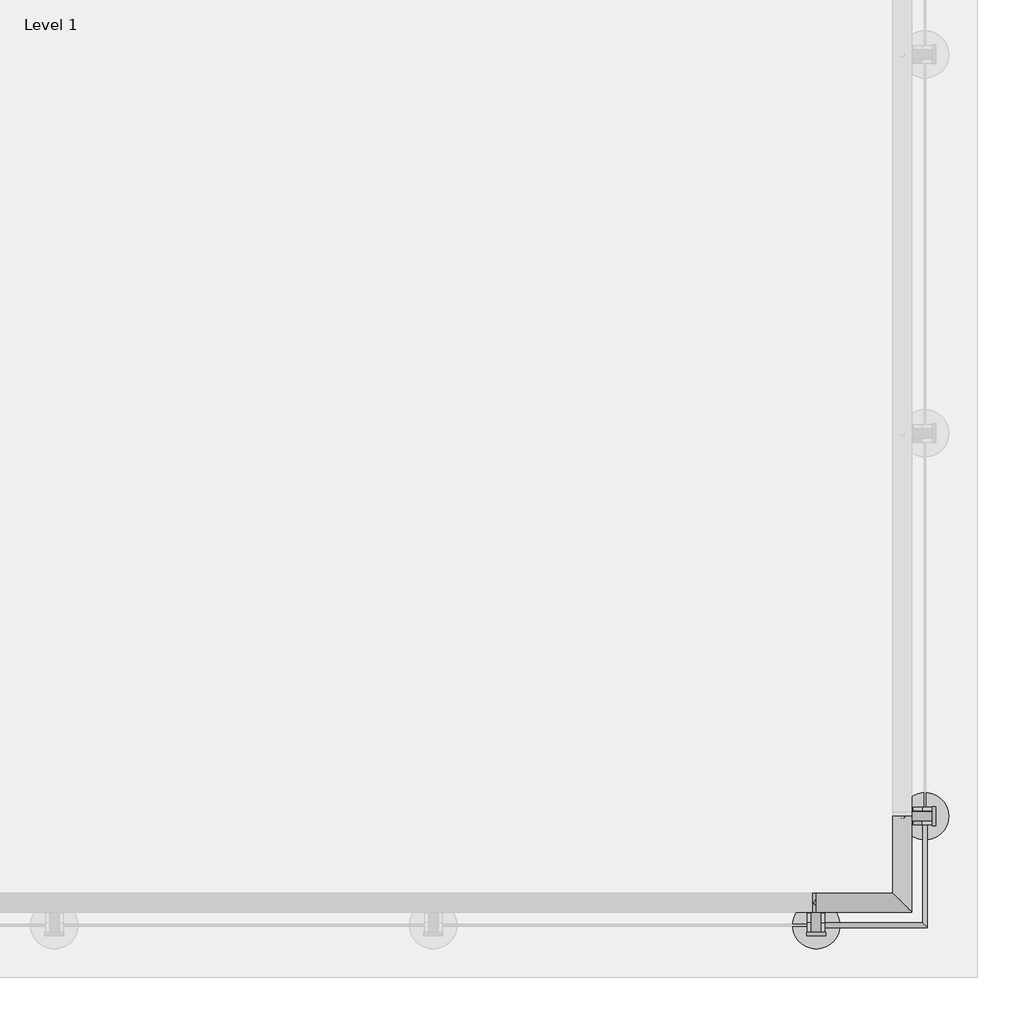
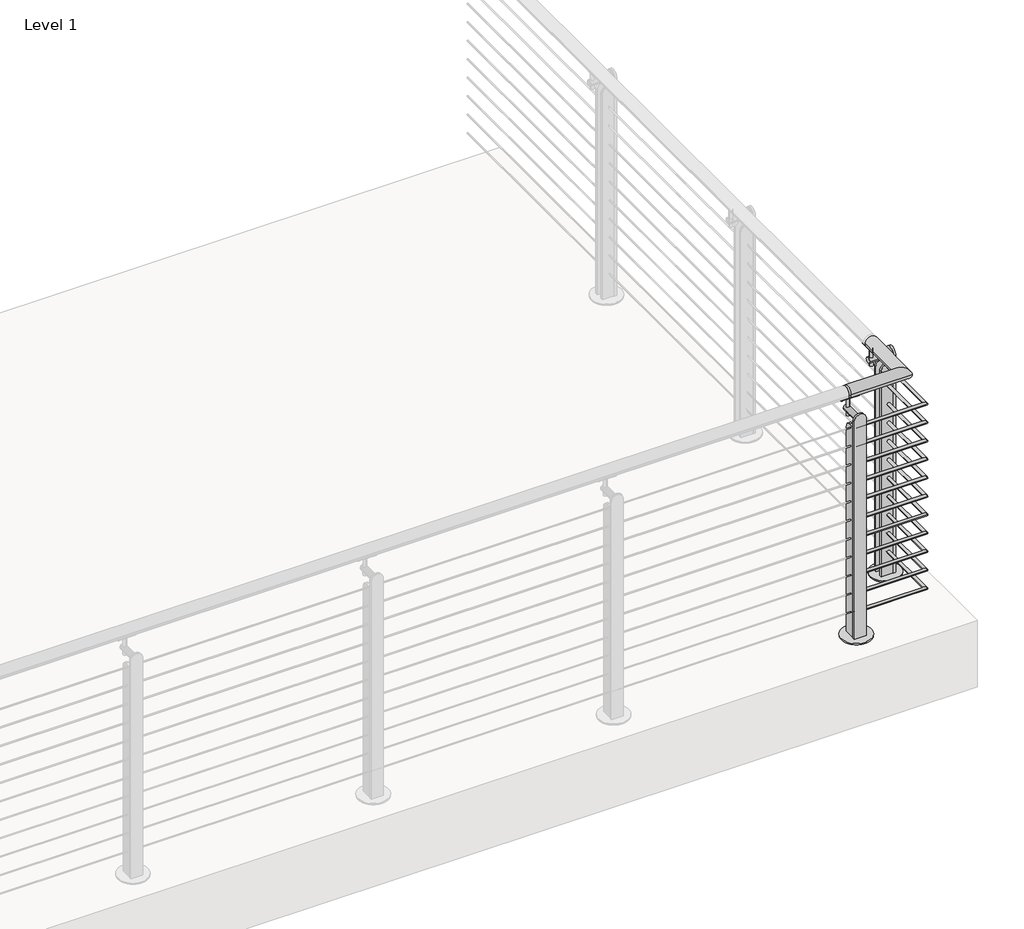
# One storey, part 6 of 9: 1 railing.
"""IFC4 building model written with IfcOpenShell, lengths in millimetres."""

from ifc_helpers import new_model, si_unit, point, frame, frame_2d, origin, origin_with_axes, place, context, project, spatial, polyline, circle_curve, ellipse_curve, trimmed, segment, composite_curve, outline, extrude, element, save
from ifc_brep_helpers import plane_surface, cylinder_surface, advanced_brep

model = new_model("IFC4")

# Units and contexts
model_context = context("Model", 3, world=origin())
ifc_project = project(units=[si_unit("LENGTHUNIT", "METRE", prefix="MILLI")], contexts=[model_context])

# Site, building, storey
site = spatial("IfcSite", under=ifc_project)
building = spatial("IfcBuilding", under=site)
storey = spatial("IfcBuildingStorey", under=building, Name="Level 1", Elevation=0.0)

# Railing
placement = place(None, origin())
element("IfcRailing", 1, ObjectType="VIVA-TEE-Cable-Core Mount-Corner", at=placement, inside=storey, context=model_context, shape_type="SolidModel", body=[
    advanced_brep(
    [(-5224.6144753, -23126.2084719, 1054.1), (-5224.6144753, -23177.0084719, 1054.1), (-4967.4394753, -23177.0084719, 1054.1), (-5018.2394753, -23126.2084719, 1054.1), (-5235.0460999, -23177.0084719, 1054.1), (-5235.0460999, -23126.2084719, 1054.1), (-4967.4394753, -22919.8334719, 1054.1), (-5018.2394753, -22919.8334719, 1054.1)],
    [
        (0, 1, circle_curve(frame((-5224.6144753, -23151.6084719, 1054.1), z_axis=(1.0, 0.0, 0.0), x_axis=(0.0, 1.0, 0.0)), 25.4)),
        (1, 2),
        (2, 3, ellipse_curve(frame((-4992.8394753, -23151.6084719, 1054.1), z_axis=(-0.7071067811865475, -0.7071067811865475, 0.0), x_axis=(-0.7071067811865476, 0.7071067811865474, 0.0)), 35.9210245, 25.4)),
        (3, 0),
        (1, 0, circle_curve(frame((-5224.6144753, -23151.6084719, 1054.1), z_axis=(1.0, 0.0, 0.0), x_axis=(0.0, 1.0, 0.0)), 25.4)),
        (3, 2, ellipse_curve(frame((-4992.8394753, -23151.6084719, 1054.1), z_axis=(-0.7071067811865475, -0.7071067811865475, 0.0), x_axis=(-0.7071067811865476, 0.7071067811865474, 0.0)), 35.9210245, 25.4)),
        (4, 5, circle_curve(frame((-5235.0460999, -23151.6084719, 1054.1), z_axis=(-1.0, 0.0, 0.0), x_axis=(0.0, 1.0, 0.0)), 25.4)),
        (5, 4, circle_curve(frame((-5235.0460999, -23151.6084719, 1054.1), z_axis=(-1.0, 0.0, 0.0), x_axis=(0.0, 1.0, 0.0)), 25.4)),
        (4, 1),
        (0, 5),
        (6, 7, circle_curve(frame((-4992.8394753, -22919.8334719, 1054.1), z_axis=(0.0, 1.0, 0.0), x_axis=(-1.0, 0.0, 0.0)), 25.4)),
        (7, 6, circle_curve(frame((-4992.8394753, -22919.8334719, 1054.1), z_axis=(0.0, 1.0, 0.0), x_axis=(-1.0, 0.0, 0.0)), 25.4)),
        (2, 6),
        (7, 3),
    ],
    [
        cylinder_surface(frame((-5224.6144753, -23151.6084719, 1054.1), z_axis=(-1.0, 0.0, 0.0), x_axis=(0.0, 1.0, 0.0)), 25.4),
        plane_surface(frame((-5235.0460999, -23151.6084719, 1079.5), z_axis=(-1.0, 0.0, 0.0), x_axis=(0.0, 1.0, 0.0))),
        cylinder_surface(frame((-5235.0460999, -23151.6084719, 1054.1), z_axis=(-1.0, 0.0, 0.0), x_axis=(0.0, 1.0, 0.0)), 25.4),
        plane_surface(frame((-4992.8394753, -22919.8334719, 1079.5), z_axis=(0.0, 1.0, 0.0), x_axis=(0.0, 0.0, 1.0))),
        cylinder_surface(frame((-4992.8394753, -23151.6084719, 1054.1), z_axis=(0.0, -1.0, 0.0), x_axis=(-1.0, 0.0, 0.0)), 25.4),
    ],
    [
        (0, [[1, 2, 3, 4]]),
        (0, [[5, -4, 6, -2]]),
        (1, [[7, 8]]),
        (2, [[-7, 9, -1, 10]]),
        (2, [[-8, -10, -5, -9]]),
        (3, [[11, 12]]),
        (4, [[-3, 13, -12, 14]]),
        (4, [[-6, -14, -11, -13]]),
    ],
),
    advanced_brep(
    [(-5224.6144753, -23205.5834719, 933.45), (-5224.6144753, -23218.2834719, 933.45), (-4938.8644753, -23205.5834719, 933.45), (-4926.1644753, -23218.2834719, 933.45), (-4938.8644753, -22919.8334719, 933.45), (-4926.1644753, -22919.8334719, 933.45)],
    [
        (0, 1, circle_curve(frame((-5224.6144753, -23211.9334719, 933.45), z_axis=(-1.0, 0.0, 0.0), x_axis=(0.0, -1.0, 0.0)), 6.35)),
        (1, 0, circle_curve(frame((-5224.6144753, -23211.9334719, 933.45), z_axis=(-1.0, 0.0, 0.0), x_axis=(0.0, -1.0, 0.0)), 6.35)),
        (0, 2),
        (2, 3, ellipse_curve(frame((-4932.5144753, -23211.9334719, 933.45), z_axis=(-0.7071067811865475, -0.7071067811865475, 0.0), x_axis=(-0.7071067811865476, 0.7071067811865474, 0.0)), 8.9802561, 6.35)),
        (3, 1),
        (3, 2, ellipse_curve(frame((-4932.5144753, -23211.9334719, 933.45), z_axis=(-0.7071067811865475, -0.7071067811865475, 0.0), x_axis=(-0.7071067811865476, 0.7071067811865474, 0.0)), 8.9802561, 6.35)),
        (4, 5, circle_curve(frame((-4932.5144753, -22919.8334719, 933.45), z_axis=(0.0, 1.0, 0.0), x_axis=(1.0, 0.0, 0.0)), 6.35)),
        (5, 4, circle_curve(frame((-4932.5144753, -22919.8334719, 933.45), z_axis=(0.0, 1.0, 0.0), x_axis=(1.0, 0.0, 0.0)), 6.35)),
        (2, 4),
        (5, 3),
    ],
    [
        plane_surface(frame((-5224.6144753, -23211.9334719, 939.8), z_axis=(-1.0, 0.0, 0.0), x_axis=(0.0, 1.0, 0.0))),
        cylinder_surface(frame((-5224.6144753, -23211.9334719, 933.45), z_axis=(-1.0, 0.0, 0.0), x_axis=(0.0, -1.0, 0.0)), 6.35),
        plane_surface(frame((-4932.5144753, -22919.8334719, 939.8), z_axis=(0.0, 1.0, 0.0), x_axis=(0.0, 0.0, 1.0))),
        cylinder_surface(frame((-4932.5144753, -23211.9334719, 933.45), z_axis=(0.0, -1.0, 0.0), x_axis=(1.0, 0.0, 0.0)), 6.35),
    ],
    [
        (0, [[1, 2]]),
        (1, [[-1, 3, 4, 5]]),
        (1, [[-2, -5, 6, -3]]),
        (2, [[7, 8]]),
        (3, [[-4, 9, -8, 10]]),
        (3, [[-6, -10, -7, -9]]),
    ],
),
    advanced_brep(
    [(-5224.6144753, -23205.5834719, 850.9), (-5224.6144753, -23218.2834719, 850.9), (-4938.8644753, -23205.5834719, 850.9), (-4926.1644753, -23218.2834719, 850.9), (-4938.8644753, -22919.8334719, 850.9), (-4926.1644753, -22919.8334719, 850.9)],
    [
        (0, 1, circle_curve(frame((-5224.6144753, -23211.9334719, 850.9), z_axis=(-1.0, 0.0, 0.0), x_axis=(0.0, -1.0, 0.0)), 6.35)),
        (1, 0, circle_curve(frame((-5224.6144753, -23211.9334719, 850.9), z_axis=(-1.0, 0.0, 0.0), x_axis=(0.0, -1.0, 0.0)), 6.35)),
        (0, 2),
        (2, 3, ellipse_curve(frame((-4932.5144753, -23211.9334719, 850.9), z_axis=(-0.7071067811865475, -0.7071067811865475, 0.0), x_axis=(-0.7071067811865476, 0.7071067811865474, 0.0)), 8.9802561, 6.35)),
        (3, 1),
        (3, 2, ellipse_curve(frame((-4932.5144753, -23211.9334719, 850.9), z_axis=(-0.7071067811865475, -0.7071067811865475, 0.0), x_axis=(-0.7071067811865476, 0.7071067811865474, 0.0)), 8.9802561, 6.35)),
        (4, 5, circle_curve(frame((-4932.5144753, -22919.8334719, 850.9), z_axis=(0.0, 1.0, 0.0), x_axis=(1.0, 0.0, 0.0)), 6.35)),
        (5, 4, circle_curve(frame((-4932.5144753, -22919.8334719, 850.9), z_axis=(0.0, 1.0, 0.0), x_axis=(1.0, 0.0, 0.0)), 6.35)),
        (2, 4),
        (5, 3),
    ],
    [
        plane_surface(frame((-5224.6144753, -23211.9334719, 857.25), z_axis=(-1.0, 0.0, 0.0), x_axis=(0.0, 1.0, 0.0))),
        cylinder_surface(frame((-5224.6144753, -23211.9334719, 850.9), z_axis=(-1.0, 0.0, 0.0), x_axis=(0.0, -1.0, 0.0)), 6.35),
        plane_surface(frame((-4932.5144753, -22919.8334719, 857.25), z_axis=(0.0, 1.0, 0.0), x_axis=(0.0, 0.0, 1.0))),
        cylinder_surface(frame((-4932.5144753, -23211.9334719, 850.9), z_axis=(0.0, -1.0, 0.0), x_axis=(1.0, 0.0, 0.0)), 6.35),
    ],
    [
        (0, [[1, 2]]),
        (1, [[-1, 3, 4, 5]]),
        (1, [[-2, -5, 6, -3]]),
        (2, [[7, 8]]),
        (3, [[-4, 9, -8, 10]]),
        (3, [[-6, -10, -7, -9]]),
    ],
),
    advanced_brep(
    [(-5224.6144753, -23205.5834719, 768.35), (-5224.6144753, -23218.2834719, 768.35), (-4938.8644753, -23205.5834719, 768.35), (-4926.1644753, -23218.2834719, 768.35), (-4938.8644753, -22919.8334719, 768.35), (-4926.1644753, -22919.8334719, 768.35)],
    [
        (0, 1, circle_curve(frame((-5224.6144753, -23211.9334719, 768.35), z_axis=(-1.0, 0.0, 0.0), x_axis=(0.0, -1.0, 0.0)), 6.35)),
        (1, 0, circle_curve(frame((-5224.6144753, -23211.9334719, 768.35), z_axis=(-1.0, 0.0, 0.0), x_axis=(0.0, -1.0, 0.0)), 6.35)),
        (0, 2),
        (2, 3, ellipse_curve(frame((-4932.5144753, -23211.9334719, 768.35), z_axis=(-0.7071067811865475, -0.7071067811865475, 0.0), x_axis=(-0.7071067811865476, 0.7071067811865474, 0.0)), 8.9802561, 6.35)),
        (3, 1),
        (3, 2, ellipse_curve(frame((-4932.5144753, -23211.9334719, 768.35), z_axis=(-0.7071067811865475, -0.7071067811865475, 0.0), x_axis=(-0.7071067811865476, 0.7071067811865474, 0.0)), 8.9802561, 6.35)),
        (4, 5, circle_curve(frame((-4932.5144753, -22919.8334719, 768.35), z_axis=(0.0, 1.0, 0.0), x_axis=(1.0, 0.0, 0.0)), 6.35)),
        (5, 4, circle_curve(frame((-4932.5144753, -22919.8334719, 768.35), z_axis=(0.0, 1.0, 0.0), x_axis=(1.0, 0.0, 0.0)), 6.35)),
        (2, 4),
        (5, 3),
    ],
    [
        plane_surface(frame((-5224.6144753, -23211.9334719, 774.7), z_axis=(-1.0, 0.0, 0.0), x_axis=(0.0, 1.0, 0.0))),
        cylinder_surface(frame((-5224.6144753, -23211.9334719, 768.35), z_axis=(-1.0, 0.0, 0.0), x_axis=(0.0, -1.0, 0.0)), 6.35),
        plane_surface(frame((-4932.5144753, -22919.8334719, 774.7), z_axis=(0.0, 1.0, 0.0), x_axis=(0.0, 0.0, 1.0))),
        cylinder_surface(frame((-4932.5144753, -23211.9334719, 768.35), z_axis=(0.0, -1.0, 0.0), x_axis=(1.0, 0.0, 0.0)), 6.35),
    ],
    [
        (0, [[1, 2]]),
        (1, [[-1, 3, 4, 5]]),
        (1, [[-2, -5, 6, -3]]),
        (2, [[7, 8]]),
        (3, [[-4, 9, -8, 10]]),
        (3, [[-6, -10, -7, -9]]),
    ],
),
    advanced_brep(
    [(-5224.6144753, -23205.5834719, 685.8), (-5224.6144753, -23218.2834719, 685.8), (-4938.8644753, -23205.5834719, 685.8), (-4926.1644753, -23218.2834719, 685.8), (-4938.8644753, -22919.8334719, 685.8), (-4926.1644753, -22919.8334719, 685.8)],
    [
        (0, 1, circle_curve(frame((-5224.6144753, -23211.9334719, 685.8), z_axis=(-1.0, 0.0, 0.0), x_axis=(0.0, -1.0, 0.0)), 6.35)),
        (1, 0, circle_curve(frame((-5224.6144753, -23211.9334719, 685.8), z_axis=(-1.0, 0.0, 0.0), x_axis=(0.0, -1.0, 0.0)), 6.35)),
        (0, 2),
        (2, 3, ellipse_curve(frame((-4932.5144753, -23211.9334719, 685.8), z_axis=(-0.7071067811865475, -0.7071067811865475, 0.0), x_axis=(-0.7071067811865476, 0.7071067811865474, 0.0)), 8.9802561, 6.35)),
        (3, 1),
        (3, 2, ellipse_curve(frame((-4932.5144753, -23211.9334719, 685.8), z_axis=(-0.7071067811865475, -0.7071067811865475, 0.0), x_axis=(-0.7071067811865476, 0.7071067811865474, 0.0)), 8.9802561, 6.35)),
        (4, 5, circle_curve(frame((-4932.5144753, -22919.8334719, 685.8), z_axis=(0.0, 1.0, 0.0), x_axis=(1.0, 0.0, 0.0)), 6.35)),
        (5, 4, circle_curve(frame((-4932.5144753, -22919.8334719, 685.8), z_axis=(0.0, 1.0, 0.0), x_axis=(1.0, 0.0, 0.0)), 6.35)),
        (2, 4),
        (5, 3),
    ],
    [
        plane_surface(frame((-5224.6144753, -23211.9334719, 692.15), z_axis=(-1.0, 0.0, 0.0), x_axis=(0.0, 1.0, 0.0))),
        cylinder_surface(frame((-5224.6144753, -23211.9334719, 685.8), z_axis=(-1.0, 0.0, 0.0), x_axis=(0.0, -1.0, 0.0)), 6.35),
        plane_surface(frame((-4932.5144753, -22919.8334719, 692.15), z_axis=(0.0, 1.0, 0.0), x_axis=(0.0, 0.0, 1.0))),
        cylinder_surface(frame((-4932.5144753, -23211.9334719, 685.8), z_axis=(0.0, -1.0, 0.0), x_axis=(1.0, 0.0, 0.0)), 6.35),
    ],
    [
        (0, [[1, 2]]),
        (1, [[-1, 3, 4, 5]]),
        (1, [[-2, -5, 6, -3]]),
        (2, [[7, 8]]),
        (3, [[-4, 9, -8, 10]]),
        (3, [[-6, -10, -7, -9]]),
    ],
),
    advanced_brep(
    [(-5224.6144753, -23205.5834719, 603.25), (-5224.6144753, -23218.2834719, 603.25), (-4938.8644753, -23205.5834719, 603.25), (-4926.1644753, -23218.2834719, 603.25), (-4938.8644753, -22919.8334719, 603.25), (-4926.1644753, -22919.8334719, 603.25)],
    [
        (0, 1, circle_curve(frame((-5224.6144753, -23211.9334719, 603.25), z_axis=(-1.0, 0.0, 0.0), x_axis=(0.0, -1.0, 0.0)), 6.35)),
        (1, 0, circle_curve(frame((-5224.6144753, -23211.9334719, 603.25), z_axis=(-1.0, 0.0, 0.0), x_axis=(0.0, -1.0, 0.0)), 6.35)),
        (0, 2),
        (2, 3, ellipse_curve(frame((-4932.5144753, -23211.9334719, 603.25), z_axis=(-0.7071067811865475, -0.7071067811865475, 0.0), x_axis=(-0.7071067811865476, 0.7071067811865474, 0.0)), 8.9802561, 6.35)),
        (3, 1),
        (3, 2, ellipse_curve(frame((-4932.5144753, -23211.9334719, 603.25), z_axis=(-0.7071067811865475, -0.7071067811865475, 0.0), x_axis=(-0.7071067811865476, 0.7071067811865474, 0.0)), 8.9802561, 6.35)),
        (4, 5, circle_curve(frame((-4932.5144753, -22919.8334719, 603.25), z_axis=(0.0, 1.0, 0.0), x_axis=(1.0, 0.0, 0.0)), 6.35)),
        (5, 4, circle_curve(frame((-4932.5144753, -22919.8334719, 603.25), z_axis=(0.0, 1.0, 0.0), x_axis=(1.0, 0.0, 0.0)), 6.35)),
        (2, 4),
        (5, 3),
    ],
    [
        plane_surface(frame((-5224.6144753, -23211.9334719, 609.6), z_axis=(-1.0, 0.0, 0.0), x_axis=(0.0, 1.0, 0.0))),
        cylinder_surface(frame((-5224.6144753, -23211.9334719, 603.25), z_axis=(-1.0, 0.0, 0.0), x_axis=(0.0, -1.0, 0.0)), 6.35),
        plane_surface(frame((-4932.5144753, -22919.8334719, 609.6), z_axis=(0.0, 1.0, 0.0), x_axis=(0.0, 0.0, 1.0))),
        cylinder_surface(frame((-4932.5144753, -23211.9334719, 603.25), z_axis=(0.0, -1.0, 0.0), x_axis=(1.0, 0.0, 0.0)), 6.35),
    ],
    [
        (0, [[1, 2]]),
        (1, [[-1, 3, 4, 5]]),
        (1, [[-2, -5, 6, -3]]),
        (2, [[7, 8]]),
        (3, [[-4, 9, -8, 10]]),
        (3, [[-6, -10, -7, -9]]),
    ],
),
    advanced_brep(
    [(-5224.6144753, -23205.5834719, 520.7), (-5224.6144753, -23218.2834719, 520.7), (-4938.8644753, -23205.5834719, 520.7), (-4926.1644753, -23218.2834719, 520.7), (-4938.8644753, -22919.8334719, 520.7), (-4926.1644753, -22919.8334719, 520.7)],
    [
        (0, 1, circle_curve(frame((-5224.6144753, -23211.9334719, 520.7), z_axis=(-1.0, 0.0, 0.0), x_axis=(0.0, -1.0, 0.0)), 6.35)),
        (1, 0, circle_curve(frame((-5224.6144753, -23211.9334719, 520.7), z_axis=(-1.0, 0.0, 0.0), x_axis=(0.0, -1.0, 0.0)), 6.35)),
        (0, 2),
        (2, 3, ellipse_curve(frame((-4932.5144753, -23211.9334719, 520.7), z_axis=(-0.7071067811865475, -0.7071067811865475, 0.0), x_axis=(-0.7071067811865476, 0.7071067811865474, 0.0)), 8.9802561, 6.35)),
        (3, 1),
        (3, 2, ellipse_curve(frame((-4932.5144753, -23211.9334719, 520.7), z_axis=(-0.7071067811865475, -0.7071067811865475, 0.0), x_axis=(-0.7071067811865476, 0.7071067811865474, 0.0)), 8.9802561, 6.35)),
        (4, 5, circle_curve(frame((-4932.5144753, -22919.8334719, 520.7), z_axis=(0.0, 1.0, 0.0), x_axis=(1.0, 0.0, 0.0)), 6.35)),
        (5, 4, circle_curve(frame((-4932.5144753, -22919.8334719, 520.7), z_axis=(0.0, 1.0, 0.0), x_axis=(1.0, 0.0, 0.0)), 6.35)),
        (2, 4),
        (5, 3),
    ],
    [
        plane_surface(frame((-5224.6144753, -23211.9334719, 527.05), z_axis=(-1.0, 0.0, 0.0), x_axis=(0.0, 1.0, 0.0))),
        cylinder_surface(frame((-5224.6144753, -23211.9334719, 520.7), z_axis=(-1.0, 0.0, 0.0), x_axis=(0.0, -1.0, 0.0)), 6.35),
        plane_surface(frame((-4932.5144753, -22919.8334719, 527.05), z_axis=(0.0, 1.0, 0.0), x_axis=(0.0, 0.0, 1.0))),
        cylinder_surface(frame((-4932.5144753, -23211.9334719, 520.7), z_axis=(0.0, -1.0, 0.0), x_axis=(1.0, 0.0, 0.0)), 6.35),
    ],
    [
        (0, [[1, 2]]),
        (1, [[-1, 3, 4, 5]]),
        (1, [[-2, -5, 6, -3]]),
        (2, [[7, 8]]),
        (3, [[-4, 9, -8, 10]]),
        (3, [[-6, -10, -7, -9]]),
    ],
),
    advanced_brep(
    [(-5224.6144753, -23205.5834719, 438.15), (-5224.6144753, -23218.2834719, 438.15), (-4938.8644753, -23205.5834719, 438.15), (-4926.1644753, -23218.2834719, 438.15), (-4938.8644753, -22919.8334719, 438.15), (-4926.1644753, -22919.8334719, 438.15)],
    [
        (0, 1, circle_curve(frame((-5224.6144753, -23211.9334719, 438.15), z_axis=(-1.0, 0.0, 0.0), x_axis=(0.0, -1.0, 0.0)), 6.35)),
        (1, 0, circle_curve(frame((-5224.6144753, -23211.9334719, 438.15), z_axis=(-1.0, 0.0, 0.0), x_axis=(0.0, -1.0, 0.0)), 6.35)),
        (0, 2),
        (2, 3, ellipse_curve(frame((-4932.5144753, -23211.9334719, 438.15), z_axis=(-0.7071067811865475, -0.7071067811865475, 0.0), x_axis=(-0.7071067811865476, 0.7071067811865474, 0.0)), 8.9802561, 6.35)),
        (3, 1),
        (3, 2, ellipse_curve(frame((-4932.5144753, -23211.9334719, 438.15), z_axis=(-0.7071067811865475, -0.7071067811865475, 0.0), x_axis=(-0.7071067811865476, 0.7071067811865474, 0.0)), 8.9802561, 6.35)),
        (4, 5, circle_curve(frame((-4932.5144753, -22919.8334719, 438.15), z_axis=(0.0, 1.0, 0.0), x_axis=(1.0, 0.0, 0.0)), 6.35)),
        (5, 4, circle_curve(frame((-4932.5144753, -22919.8334719, 438.15), z_axis=(0.0, 1.0, 0.0), x_axis=(1.0, 0.0, 0.0)), 6.35)),
        (2, 4),
        (5, 3),
    ],
    [
        plane_surface(frame((-5224.6144753, -23211.9334719, 444.5), z_axis=(-1.0, 0.0, 0.0), x_axis=(0.0, 1.0, 0.0))),
        cylinder_surface(frame((-5224.6144753, -23211.9334719, 438.15), z_axis=(-1.0, 0.0, 0.0), x_axis=(0.0, -1.0, 0.0)), 6.35),
        plane_surface(frame((-4932.5144753, -22919.8334719, 444.5), z_axis=(0.0, 1.0, 0.0), x_axis=(0.0, 0.0, 1.0))),
        cylinder_surface(frame((-4932.5144753, -23211.9334719, 438.15), z_axis=(0.0, -1.0, 0.0), x_axis=(1.0, 0.0, 0.0)), 6.35),
    ],
    [
        (0, [[1, 2]]),
        (1, [[-1, 3, 4, 5]]),
        (1, [[-2, -5, 6, -3]]),
        (2, [[7, 8]]),
        (3, [[-4, 9, -8, 10]]),
        (3, [[-6, -10, -7, -9]]),
    ],
),
    advanced_brep(
    [(-5224.6144753, -23205.5834719, 355.6), (-5224.6144753, -23218.2834719, 355.6), (-4938.8644753, -23205.5834719, 355.6), (-4926.1644753, -23218.2834719, 355.6), (-4938.8644753, -22919.8334719, 355.6), (-4926.1644753, -22919.8334719, 355.6)],
    [
        (0, 1, circle_curve(frame((-5224.6144753, -23211.9334719, 355.6), z_axis=(-1.0, 0.0, 0.0), x_axis=(0.0, -1.0, 0.0)), 6.35)),
        (1, 0, circle_curve(frame((-5224.6144753, -23211.9334719, 355.6), z_axis=(-1.0, 0.0, 0.0), x_axis=(0.0, -1.0, 0.0)), 6.35)),
        (0, 2),
        (2, 3, ellipse_curve(frame((-4932.5144753, -23211.9334719, 355.6), z_axis=(-0.7071067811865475, -0.7071067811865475, 0.0), x_axis=(-0.7071067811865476, 0.7071067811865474, 0.0)), 8.9802561, 6.35)),
        (3, 1),
        (3, 2, ellipse_curve(frame((-4932.5144753, -23211.9334719, 355.6), z_axis=(-0.7071067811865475, -0.7071067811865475, 0.0), x_axis=(-0.7071067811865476, 0.7071067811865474, 0.0)), 8.9802561, 6.35)),
        (4, 5, circle_curve(frame((-4932.5144753, -22919.8334719, 355.6), z_axis=(0.0, 1.0, 0.0), x_axis=(1.0, 0.0, 0.0)), 6.35)),
        (5, 4, circle_curve(frame((-4932.5144753, -22919.8334719, 355.6), z_axis=(0.0, 1.0, 0.0), x_axis=(1.0, 0.0, 0.0)), 6.35)),
        (2, 4),
        (5, 3),
    ],
    [
        plane_surface(frame((-5224.6144753, -23211.9334719, 361.95), z_axis=(-1.0, 0.0, 0.0), x_axis=(0.0, 1.0, 0.0))),
        cylinder_surface(frame((-5224.6144753, -23211.9334719, 355.6), z_axis=(-1.0, 0.0, 0.0), x_axis=(0.0, -1.0, 0.0)), 6.35),
        plane_surface(frame((-4932.5144753, -22919.8334719, 361.95), z_axis=(0.0, 1.0, 0.0), x_axis=(0.0, 0.0, 1.0))),
        cylinder_surface(frame((-4932.5144753, -23211.9334719, 355.6), z_axis=(0.0, -1.0, 0.0), x_axis=(1.0, 0.0, 0.0)), 6.35),
    ],
    [
        (0, [[1, 2]]),
        (1, [[-1, 3, 4, 5]]),
        (1, [[-2, -5, 6, -3]]),
        (2, [[7, 8]]),
        (3, [[-4, 9, -8, 10]]),
        (3, [[-6, -10, -7, -9]]),
    ],
),
    advanced_brep(
    [(-5224.6144753, -23205.5834719, 273.05), (-5224.6144753, -23218.2834719, 273.05), (-4938.8644753, -23205.5834719, 273.05), (-4926.1644753, -23218.2834719, 273.05), (-4938.8644753, -22919.8334719, 273.05), (-4926.1644753, -22919.8334719, 273.05)],
    [
        (0, 1, circle_curve(frame((-5224.6144753, -23211.9334719, 273.05), z_axis=(-1.0, 0.0, 0.0), x_axis=(0.0, -1.0, 0.0)), 6.35)),
        (1, 0, circle_curve(frame((-5224.6144753, -23211.9334719, 273.05), z_axis=(-1.0, 0.0, 0.0), x_axis=(0.0, -1.0, 0.0)), 6.35)),
        (0, 2),
        (2, 3, ellipse_curve(frame((-4932.5144753, -23211.9334719, 273.05), z_axis=(-0.7071067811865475, -0.7071067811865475, 0.0), x_axis=(-0.7071067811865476, 0.7071067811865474, 0.0)), 8.9802561, 6.35)),
        (3, 1),
        (3, 2, ellipse_curve(frame((-4932.5144753, -23211.9334719, 273.05), z_axis=(-0.7071067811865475, -0.7071067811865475, 0.0), x_axis=(-0.7071067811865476, 0.7071067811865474, 0.0)), 8.9802561, 6.35)),
        (4, 5, circle_curve(frame((-4932.5144753, -22919.8334719, 273.05), z_axis=(0.0, 1.0, 0.0), x_axis=(1.0, 0.0, 0.0)), 6.35)),
        (5, 4, circle_curve(frame((-4932.5144753, -22919.8334719, 273.05), z_axis=(0.0, 1.0, 0.0), x_axis=(1.0, 0.0, 0.0)), 6.35)),
        (2, 4),
        (5, 3),
    ],
    [
        plane_surface(frame((-5224.6144753, -23211.9334719, 279.4), z_axis=(-1.0, 0.0, 0.0), x_axis=(0.0, 1.0, 0.0))),
        cylinder_surface(frame((-5224.6144753, -23211.9334719, 273.05), z_axis=(-1.0, 0.0, 0.0), x_axis=(0.0, -1.0, 0.0)), 6.35),
        plane_surface(frame((-4932.5144753, -22919.8334719, 279.4), z_axis=(0.0, 1.0, 0.0), x_axis=(0.0, 0.0, 1.0))),
        cylinder_surface(frame((-4932.5144753, -23211.9334719, 273.05), z_axis=(0.0, -1.0, 0.0), x_axis=(1.0, 0.0, 0.0)), 6.35),
    ],
    [
        (0, [[1, 2]]),
        (1, [[-1, 3, 4, 5]]),
        (1, [[-2, -5, 6, -3]]),
        (2, [[7, 8]]),
        (3, [[-4, 9, -8, 10]]),
        (3, [[-6, -10, -7, -9]]),
    ],
),
    advanced_brep(
    [(-5224.6144753, -23205.5834719, 190.5), (-5224.6144753, -23218.2834719, 190.5), (-4938.8644753, -23205.5834719, 190.5), (-4926.1644753, -23218.2834719, 190.5), (-4938.8644753, -22919.8334719, 190.5), (-4926.1644753, -22919.8334719, 190.5)],
    [
        (0, 1, circle_curve(frame((-5224.6144753, -23211.9334719, 190.5), z_axis=(-1.0, 0.0, 0.0), x_axis=(0.0, -1.0, 0.0)), 6.35)),
        (1, 0, circle_curve(frame((-5224.6144753, -23211.9334719, 190.5), z_axis=(-1.0, 0.0, 0.0), x_axis=(0.0, -1.0, 0.0)), 6.35)),
        (0, 2),
        (2, 3, ellipse_curve(frame((-4932.5144753, -23211.9334719, 190.5), z_axis=(-0.7071067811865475, -0.7071067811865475, 0.0), x_axis=(-0.7071067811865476, 0.7071067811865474, 0.0)), 8.9802561, 6.35)),
        (3, 1),
        (3, 2, ellipse_curve(frame((-4932.5144753, -23211.9334719, 190.5), z_axis=(-0.7071067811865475, -0.7071067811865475, 0.0), x_axis=(-0.7071067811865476, 0.7071067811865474, 0.0)), 8.9802561, 6.35)),
        (4, 5, circle_curve(frame((-4932.5144753, -22919.8334719, 190.5), z_axis=(0.0, 1.0, 0.0), x_axis=(1.0, 0.0, 0.0)), 6.35)),
        (5, 4, circle_curve(frame((-4932.5144753, -22919.8334719, 190.5), z_axis=(0.0, 1.0, 0.0), x_axis=(1.0, 0.0, 0.0)), 6.35)),
        (2, 4),
        (5, 3),
    ],
    [
        plane_surface(frame((-5224.6144753, -23211.9334719, 196.85), z_axis=(-1.0, 0.0, 0.0), x_axis=(0.0, 1.0, 0.0))),
        cylinder_surface(frame((-5224.6144753, -23211.9334719, 190.5), z_axis=(-1.0, 0.0, 0.0), x_axis=(0.0, -1.0, 0.0)), 6.35),
        plane_surface(frame((-4932.5144753, -22919.8334719, 196.85), z_axis=(0.0, 1.0, 0.0), x_axis=(0.0, 0.0, 1.0))),
        cylinder_surface(frame((-4932.5144753, -23211.9334719, 190.5), z_axis=(0.0, -1.0, 0.0), x_axis=(1.0, 0.0, 0.0)), 6.35),
    ],
    [
        (0, [[1, 2]]),
        (1, [[-1, 3, 4, 5]]),
        (1, [[-2, -5, 6, -3]]),
        (2, [[7, 8]]),
        (3, [[-4, 9, -8, 10]]),
        (3, [[-6, -10, -7, -9]]),
    ],
),
    advanced_brep(
    [(-5224.6144753, -23205.5834719, 107.95), (-5224.6144753, -23218.2834719, 107.95), (-4938.8644753, -23205.5834719, 107.95), (-4926.1644753, -23218.2834719, 107.95), (-4938.8644753, -22919.8334719, 107.95), (-4926.1644753, -22919.8334719, 107.95)],
    [
        (0, 1, circle_curve(frame((-5224.6144753, -23211.9334719, 107.95), z_axis=(-1.0, 0.0, 0.0), x_axis=(0.0, -1.0, 0.0)), 6.35)),
        (1, 0, circle_curve(frame((-5224.6144753, -23211.9334719, 107.95), z_axis=(-1.0, 0.0, 0.0), x_axis=(0.0, -1.0, 0.0)), 6.35)),
        (0, 2),
        (2, 3, ellipse_curve(frame((-4932.5144753, -23211.9334719, 107.95), z_axis=(-0.7071067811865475, -0.7071067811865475, 0.0), x_axis=(-0.7071067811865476, 0.7071067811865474, 0.0)), 8.9802561, 6.35)),
        (3, 1),
        (3, 2, ellipse_curve(frame((-4932.5144753, -23211.9334719, 107.95), z_axis=(-0.7071067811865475, -0.7071067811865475, 0.0), x_axis=(-0.7071067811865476, 0.7071067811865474, 0.0)), 8.9802561, 6.35)),
        (4, 5, circle_curve(frame((-4932.5144753, -22919.8334719, 107.95), z_axis=(0.0, 1.0, 0.0), x_axis=(1.0, 0.0, 0.0)), 6.35)),
        (5, 4, circle_curve(frame((-4932.5144753, -22919.8334719, 107.95), z_axis=(0.0, 1.0, 0.0), x_axis=(1.0, 0.0, 0.0)), 6.35)),
        (2, 4),
        (5, 3),
    ],
    [
        plane_surface(frame((-5224.6144753, -23211.9334719, 114.3), z_axis=(-1.0, 0.0, 0.0), x_axis=(0.0, 1.0, 0.0))),
        cylinder_surface(frame((-5224.6144753, -23211.9334719, 107.95), z_axis=(-1.0, 0.0, 0.0), x_axis=(0.0, -1.0, 0.0)), 6.35),
        plane_surface(frame((-4932.5144753, -22919.8334719, 114.3), z_axis=(0.0, 1.0, 0.0), x_axis=(0.0, 0.0, 1.0))),
        cylinder_surface(frame((-4932.5144753, -23211.9334719, 107.95), z_axis=(0.0, -1.0, 0.0), x_axis=(1.0, 0.0, 0.0)), 6.35),
    ],
    [
        (0, [[1, 2]]),
        (1, [[-1, 3, 4, 5]]),
        (1, [[-2, -5, 6, -3]]),
        (2, [[7, 8]]),
        (3, [[-4, 9, -8, 10]]),
        (3, [[-6, -10, -7, -9]]),
    ],
),
    extrude(outline(composite_curve([segment(trimmed(circle_curve(frame_2d((0.0, 7.0)), 7.0), [point((0.0, 14.0))], [point((0.0, 0.0))], False, "CARTESIAN"), True, "CONTINUOUS"), segment(trimmed(circle_curve(frame_2d((0.0, 7.0)), 7.0), [point((0.0, 0.0))], [point((0.0, 14.0))], False, "CARTESIAN"), True, "CONTINUOUS")], self_intersect=False)), frame((-4986.1296215, -22919.759762, 949.1832524), z_axis=(0.0, 0.004253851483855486, 0.9999909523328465), x_axis=(0.0, 0.9999909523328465, -0.004253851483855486)), (0.0, 0.0, 1.0), 75.97),
    extrude(outline(composite_curve([segment(trimmed(circle_curve(frame_2d((1047.2025651, -4993.2710255)), 19.05), [point((1033.7916463, -4979.7414373))], [point((1033.7916463, -5006.8006138))], True, "CARTESIAN"), True, "CONTINUOUS"), segment(polyline([(1033.7916463, -5006.8006138), (1032.7742593, -5007.8270034)]), True, "CONTINUOUS"), segment(trimmed(circle_curve(frame_2d((1031.7089374, -5006.7710255)), 1.5), [point((1032.7742593, -5007.8270034))], [point((1030.5780156, -5007.756427))], False, "CARTESIAN"), True, "CONTINUOUS"), segment(trimmed(circle_curve(frame_2d((1047.2025651, -4993.2710255)), 22.05), [point((1030.5780156, -5007.756427))], [point((1030.5780156, -4978.7856241))], False, "CARTESIAN"), True, "CONTINUOUS"), segment(trimmed(circle_curve(frame_2d((1031.7089374, -4979.7710255)), 1.5), [point((1030.5780156, -4978.7856241))], [point((1032.7742593, -4978.7150477))], False, "CARTESIAN"), True, "CONTINUOUS"), segment(polyline([(1032.7742593, -4978.7150477), (1033.7916463, -4979.7414373)]), True, "CONTINUOUS")], self_intersect=False)), frame((0.0, -22955.2982361, 0.0), z_axis=(0.0, 1.0, 0.0), x_axis=(0.0, 0.0, 1.0)), (0.0, 0.0, 1.0), 74.5229187),
    extrude(outline(composite_curve([segment(trimmed(circle_curve(frame_2d((-22919.5554315, 976.1259188)), 12.5), [point((-22932.0554315, 976.1259188))], [point((-22907.0554315, 976.1259188))], False, "CARTESIAN"), True, "CONTINUOUS"), segment(trimmed(circle_curve(frame_2d((-22919.5554315, 976.1259188)), 12.5), [point((-22907.0554315, 976.1259188))], [point((-22932.0554315, 976.1259188))], False, "CARTESIAN"), True, "CONTINUOUS")], self_intersect=False)), frame((-5005.7866356, 0.0, 0.0), z_axis=(1.0, 0.0, 0.0), x_axis=(0.0, 1.0, 0.0)), (0.0, 0.0, 1.0), 92.423),
    extrude(outline(composite_curve([segment(trimmed(circle_curve(frame_2d((-4932.5144753, -22919.4365969)), 63.5), [point((-4869.0144753, -22919.4365969))], [point((-4996.0144753, -22919.4365969))], False, "CARTESIAN"), True, "CONTINUOUS"), segment(trimmed(circle_curve(frame_2d((-4932.5144753, -22919.4365969)), 63.5), [point((-4996.0144753, -22919.4365969))], [point((-4869.0144753, -22919.4365969))], False, "CARTESIAN"), True, "CONTINUOUS")], self_intersect=False)), origin_with_axes(), (0.0, 0.0, 1.0), 6.35),
    extrude(outline(composite_curve([segment(trimmed(circle_curve(frame_2d((924.2425, -4939.5299268)), 24.765), [point((949.0075, -4939.5299268))], [point((924.2425, -4964.2949268))], False, "CARTESIAN"), True, "CONTINUOUS"), segment(polyline([(924.2425, -4964.2949268), (-196.85, -4964.2949268), (-196.85, -4913.4644753), (949.0075, -4913.4644753), (949.0075, -4939.5299268)]), True, "CONTINUOUS")], self_intersect=False)), frame((0.0, -22905.4330973, 0.0), z_axis=(0.0, 1.0, 0.0), x_axis=(0.0, 0.0, 1.0)), (0.0, 0.0, 1.0), 9.525),
    extrude(outline(composite_curve([segment(polyline([(-22894.0365969, -196.85), (-22944.8365969, -196.85), (-22944.8365969, 979.17)]), True, "CONTINUOUS"), segment(trimmed(circle_curve(frame_2d((-22919.4365969, 979.17)), 25.4), [point((-22944.8365969, 979.17))], [point((-22894.0365969, 979.17))], False, "CARTESIAN"), True, "CONTINUOUS"), segment(polyline([(-22894.0365969, 979.17), (-22894.0365969, -196.85)]), True, "CONTINUOUS")], self_intersect=False)), frame((-4913.4644753, 0.0, 0.0), z_axis=(1.0, 0.0, 0.0), x_axis=(0.0, 1.0, 0.0)), (0.0, 0.0, 1.0), 9.525),
    extrude(outline(composite_curve([segment(trimmed(circle_curve(frame_2d((924.2425, -4939.5299268)), 24.765), [point((949.0075, -4939.5299268))], [point((924.2425, -4964.2949268))], False, "CARTESIAN"), True, "CONTINUOUS"), segment(polyline([(924.2425, -4964.2949268), (-196.85, -4964.2949268), (-196.85, -4913.4644753), (949.0075, -4913.4644753), (949.0075, -4939.5299268)]), True, "CONTINUOUS")], self_intersect=False)), frame((0.0, -22942.9650964, 0.0), z_axis=(0.0, 1.0, 0.0), x_axis=(0.0, 0.0, 1.0)), (0.0, 0.0, 1.0), 9.525),
    extrude(outline(composite_curve([segment(trimmed(circle_curve(frame_2d((0.0, 7.0)), 7.0), [point((0.0, 14.0))], [point((0.0, 0.0))], False, "CARTESIAN"), True, "CONTINUOUS"), segment(trimmed(circle_curve(frame_2d((0.0, 7.0)), 7.0), [point((0.0, 0.0))], [point((0.0, 14.0))], False, "CARTESIAN"), True, "CONTINUOUS")], self_intersect=False)), frame((-5224.5407654, -23158.3183256, 949.1832524), z_axis=(0.004253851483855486, 0.0, 0.9999909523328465), x_axis=(0.9999909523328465, 0.0, -0.004253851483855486)), (0.0, 0.0, 1.0), 75.97),
    extrude(outline(composite_curve([segment(trimmed(circle_curve(frame_2d((-23151.1769216, 1047.2025651)), 19.05), [point((-23164.7065099, 1033.7916463))], [point((-23137.6473334, 1033.7916463))], True, "CARTESIAN"), True, "CONTINUOUS"), segment(polyline([(-23137.6473334, 1033.7916463), (-23136.6209438, 1032.7742593)]), True, "CONTINUOUS"), segment(trimmed(circle_curve(frame_2d((-23137.6769216, 1031.7089374)), 1.5), [point((-23136.6209438, 1032.7742593))], [point((-23136.6915202, 1030.5780156))], False, "CARTESIAN"), True, "CONTINUOUS"), segment(trimmed(circle_curve(frame_2d((-23151.1769216, 1047.2025651)), 22.05), [point((-23136.6915202, 1030.5780156))], [point((-23165.6623231, 1030.5780156))], False, "CARTESIAN"), True, "CONTINUOUS"), segment(trimmed(circle_curve(frame_2d((-23164.6769216, 1031.7089374)), 1.5), [point((-23165.6623231, 1030.5780156))], [point((-23165.7328995, 1032.7742593))], False, "CARTESIAN"), True, "CONTINUOUS"), segment(polyline([(-23165.7328995, 1032.7742593), (-23164.7065099, 1033.7916463)]), True, "CONTINUOUS")], self_intersect=False)), frame((-5260.0792396, 0.0, 0.0), z_axis=(1.0, 0.0, 0.0), x_axis=(0.0, 1.0, 0.0)), (0.0, 0.0, 1.0), 74.5229187),
    extrude(outline(composite_curve([segment(trimmed(circle_curve(frame_2d((976.1259188, -5224.3364349)), 12.5), [point((976.1259188, -5236.8364349))], [point((976.1259188, -5211.8364349))], False, "CARTESIAN"), True, "CONTINUOUS"), segment(trimmed(circle_curve(frame_2d((976.1259188, -5224.3364349)), 12.5), [point((976.1259188, -5211.8364349))], [point((976.1259188, -5236.8364349))], False, "CARTESIAN"), True, "CONTINUOUS")], self_intersect=False)), frame((0.0, -23231.0843116, 0.0), z_axis=(0.0, 1.0, 0.0), x_axis=(0.0, 0.0, 1.0)), (0.0, 0.0, 1.0), 92.423),
    extrude(outline(composite_curve([segment(trimmed(circle_curve(frame_2d((-5224.2176003, -23211.9334719)), 63.5), [point((-5224.2176003, -23275.4334719))], [point((-5224.2176003, -23148.4334719))], False, "CARTESIAN"), True, "CONTINUOUS"), segment(trimmed(circle_curve(frame_2d((-5224.2176003, -23211.9334719)), 63.5), [point((-5224.2176003, -23148.4334719))], [point((-5224.2176003, -23275.4334719))], False, "CARTESIAN"), True, "CONTINUOUS")], self_intersect=False)), origin_with_axes(), (0.0, 0.0, 1.0), 6.35),
    extrude(outline(composite_curve([segment(trimmed(circle_curve(frame_2d((-23204.9180203, 924.2425)), 24.765), [point((-23204.9180203, 949.0075))], [point((-23180.1530203, 924.2425))], False, "CARTESIAN"), True, "CONTINUOUS"), segment(polyline([(-23180.1530203, 924.2425), (-23180.1530203, -196.85), (-23230.9834719, -196.85), (-23230.9834719, 949.0075), (-23204.9180203, 949.0075)]), True, "CONTINUOUS")], self_intersect=False)), frame((-5210.2141007, 0.0, 0.0), z_axis=(1.0, 0.0, 0.0), x_axis=(0.0, 1.0, 0.0)), (0.0, 0.0, 1.0), 9.525),
    extrude(outline(composite_curve([segment(polyline([(-196.85, -5198.8176003), (979.17, -5198.8176003)]), True, "CONTINUOUS"), segment(trimmed(circle_curve(frame_2d((979.17, -5224.2176003)), 25.4), [point((979.17, -5198.8176003))], [point((979.17, -5249.6176003))], False, "CARTESIAN"), True, "CONTINUOUS"), segment(polyline([(979.17, -5249.6176003), (-196.85, -5249.6176003), (-196.85, -5198.8176003)]), True, "CONTINUOUS")], self_intersect=False)), frame((0.0, -23240.5084719, 0.0), z_axis=(0.0, 1.0, 0.0), x_axis=(0.0, 0.0, 1.0)), (0.0, 0.0, 1.0), 9.525),
    extrude(outline(composite_curve([segment(trimmed(circle_curve(frame_2d((-23204.9180203, 924.2425)), 24.765), [point((-23204.9180203, 949.0075))], [point((-23180.1530203, 924.2425))], False, "CARTESIAN"), True, "CONTINUOUS"), segment(polyline([(-23180.1530203, 924.2425), (-23180.1530203, -196.85), (-23230.9834719, -196.85), (-23230.9834719, 949.0075), (-23204.9180203, 949.0075)]), True, "CONTINUOUS")], self_intersect=False)), frame((-5247.7460999, 0.0, 0.0), z_axis=(1.0, 0.0, 0.0), x_axis=(0.0, 1.0, 0.0)), (0.0, 0.0, 1.0), 9.525),
])

save(model, "model.ifc")
